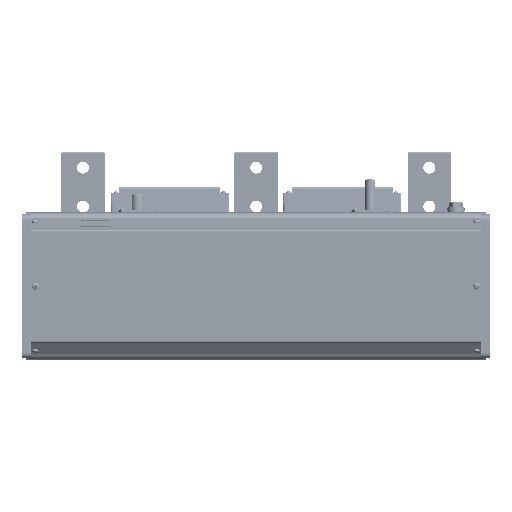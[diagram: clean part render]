
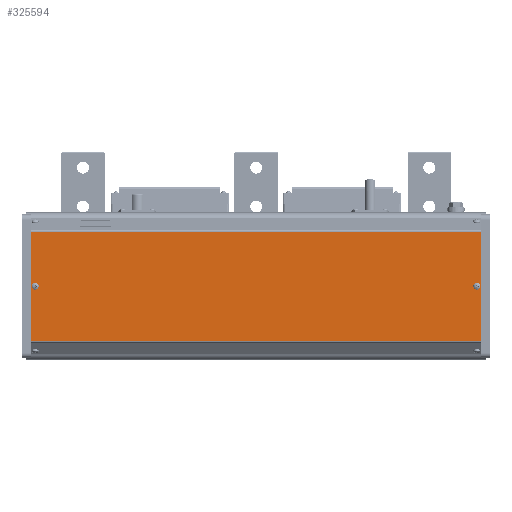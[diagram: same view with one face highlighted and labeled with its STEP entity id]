
A CAD part, front view. The second image highlights one B-rep face of the part: STEP entity #325594.
In plain terms, the highlighted planar face has unit normal (0, -1, 0) as drawn and (0, 0, -1) by its records, which use the part's own axes.
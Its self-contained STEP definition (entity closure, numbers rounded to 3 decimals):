
#6998 = DIRECTION ( 'NONE',  ( 1., 0., 0. ) ) ;
#9068 = EDGE_CURVE ( 'NONE', #430520, #439494, #613103, .T. ) ;
#9479 = FACE_OUTER_BOUND ( 'NONE', #294318, .T. ) ;
#29787 = DIRECTION ( 'NONE',  ( 0., 0., 1. ) ) ;
#34845 = CARTESIAN_POINT ( 'NONE',  ( -2.5, -255., 0. ) ) ;
#38770 = EDGE_LOOP ( 'NONE', ( #164093, #267406 ) ) ;
#43904 = EDGE_CURVE ( 'NONE', #234737, #415471, #653665, .T. ) ;
#49910 = EDGE_CURVE ( 'NONE', #193020, #439494, #170419, .T. ) ;
#77661 = CARTESIAN_POINT ( 'NONE',  ( 2.5, -255., 0. ) ) ;
#82305 = DIRECTION ( 'NONE',  ( 0., -1., 0. ) ) ;
#84338 = LINE ( 'NONE', #87833, #229257 ) ;
#87833 = CARTESIAN_POINT ( 'NONE',  ( 63., 260., 0. ) ) ;
#103290 = CARTESIAN_POINT ( 'NONE',  ( -2.5, 255., 0. ) ) ;
#127286 = AXIS2_PLACEMENT_3D ( 'NONE', #536716, #211355, #591201 ) ;
#136042 = ORIENTED_EDGE ( 'NONE', *, *, #49910, .T. ) ;
#137473 = LINE ( 'NONE', #673171, #698280 ) ;
#156918 = CIRCLE ( 'NONE', #127286, 2.5 ) ;
#164093 = ORIENTED_EDGE ( 'NONE', *, *, #466944, .T. ) ;
#170419 = LINE ( 'NONE', #678564, #552813 ) ;
#177218 = CARTESIAN_POINT ( 'NONE',  ( 2.5, 255., 0. ) ) ;
#193020 = VERTEX_POINT ( 'NONE', #213283 ) ;
#196220 = ORIENTED_EDGE ( 'NONE', *, *, #203928, .T. ) ;
#198112 = AXIS2_PLACEMENT_3D ( 'NONE', #290023, #669711, #344625 ) ;
#203928 = EDGE_CURVE ( 'NONE', #430520, #509844, #137473, .T. ) ;
#205926 = ORIENTED_EDGE ( 'NONE', *, *, #556732, .F. ) ;
#211355 = DIRECTION ( 'NONE',  ( 0., 0., 1. ) ) ;
#213283 = CARTESIAN_POINT ( 'NONE',  ( 63., 260., 0. ) ) ;
#229257 = VECTOR ( 'NONE', #572735, 1000. ) ;
#230434 = ORIENTED_EDGE ( 'NONE', *, *, #9068, .F. ) ;
#234737 = VERTEX_POINT ( 'NONE', #103290 ) ;
#266315 = ORIENTED_EDGE ( 'NONE', *, *, #43904, .T. ) ;
#267406 = ORIENTED_EDGE ( 'NONE', *, *, #592490, .T. ) ;
#268819 = CARTESIAN_POINT ( 'NONE',  ( 0., 255., 0. ) ) ;
#269029 = CARTESIAN_POINT ( 'NONE',  ( -63., -260., 0. ) ) ;
#278509 = CARTESIAN_POINT ( 'NONE',  ( 0., 0., 0. ) ) ;
#290023 = CARTESIAN_POINT ( 'NONE',  ( 0., -255., 0. ) ) ;
#293505 = DIRECTION ( 'NONE',  ( 0., 1., 0. ) ) ;
#294318 = EDGE_LOOP ( 'NONE', ( #136042, #230434, #196220, #205926 ) ) ;
#311948 = VERTEX_POINT ( 'NONE', #77661 ) ;
#323514 = DIRECTION ( 'NONE',  ( 1., 0., 0. ) ) ;
#325594 = ADVANCED_FACE ( 'NONE', ( #9479, #443667, #460629 ), #330852, .F. ) ;
#330852 = PLANE ( 'NONE',  #565043 ) ;
#333113 = DIRECTION ( 'NONE',  ( 0., 0., 1. ) ) ;
#336524 = CIRCLE ( 'NONE', #198112, 2.5 ) ;
#340097 = AXIS2_PLACEMENT_3D ( 'NONE', #355900, #29787, #410480 ) ;
#344625 = DIRECTION ( 'NONE',  ( 1., 0., 0. ) ) ;
#355900 = CARTESIAN_POINT ( 'NONE',  ( 0., 255., 0. ) ) ;
#410480 = DIRECTION ( 'NONE',  ( 1., 0., 0. ) ) ;
#415471 = VERTEX_POINT ( 'NONE', #177218 ) ;
#417549 = CARTESIAN_POINT ( 'NONE',  ( 63., -260., 0. ) ) ;
#422724 = EDGE_LOOP ( 'NONE', ( #663849, #266315 ) ) ;
#430520 = VERTEX_POINT ( 'NONE', #436618 ) ;
#436618 = CARTESIAN_POINT ( 'NONE',  ( -63., -260., 0. ) ) ;
#439494 = VERTEX_POINT ( 'NONE', #417549 ) ;
#443667 = FACE_BOUND ( 'NONE', #422724, .T. ) ;
#451763 = VECTOR ( 'NONE', #594326, 1000. ) ;
#460629 = FACE_BOUND ( 'NONE', #38770, .T. ) ;
#466944 = EDGE_CURVE ( 'NONE', #311948, #569374, #336524, .T. ) ;
#505116 = EDGE_CURVE ( 'NONE', #415471, #234737, #608857, .T. ) ;
#509844 = VERTEX_POINT ( 'NONE', #682331 ) ;
#536716 = CARTESIAN_POINT ( 'NONE',  ( 0., -255., 0. ) ) ;
#552813 = VECTOR ( 'NONE', #82305, 1000. ) ;
#556732 = EDGE_CURVE ( 'NONE', #193020, #509844, #84338, .T. ) ;
#565043 = AXIS2_PLACEMENT_3D ( 'NONE', #278509, #333113, #6998 ) ;
#569374 = VERTEX_POINT ( 'NONE', #34845 ) ;
#572735 = DIRECTION ( 'NONE',  ( -1., 0., 0. ) ) ;
#591201 = DIRECTION ( 'NONE',  ( 1., 0., 0. ) ) ;
#592490 = EDGE_CURVE ( 'NONE', #569374, #311948, #156918, .T. ) ;
#594326 = DIRECTION ( 'NONE',  ( 1., 0., 0. ) ) ;
#608857 = CIRCLE ( 'NONE', #340097, 2.5 ) ;
#613103 = LINE ( 'NONE', #269029, #451763 ) ;
#624226 = AXIS2_PLACEMENT_3D ( 'NONE', #268819, #648532, #323514 ) ;
#648532 = DIRECTION ( 'NONE',  ( 0., 0., 1. ) ) ;
#653665 = CIRCLE ( 'NONE', #624226, 2.5 ) ;
#663849 = ORIENTED_EDGE ( 'NONE', *, *, #505116, .T. ) ;
#669711 = DIRECTION ( 'NONE',  ( 0., 0., 1. ) ) ;
#673171 = CARTESIAN_POINT ( 'NONE',  ( -63., -260., 0. ) ) ;
#678564 = CARTESIAN_POINT ( 'NONE',  ( 63., 260., 0. ) ) ;
#682331 = CARTESIAN_POINT ( 'NONE',  ( -63., 260., 0. ) ) ;
#698280 = VECTOR ( 'NONE', #293505, 1000. ) ;
